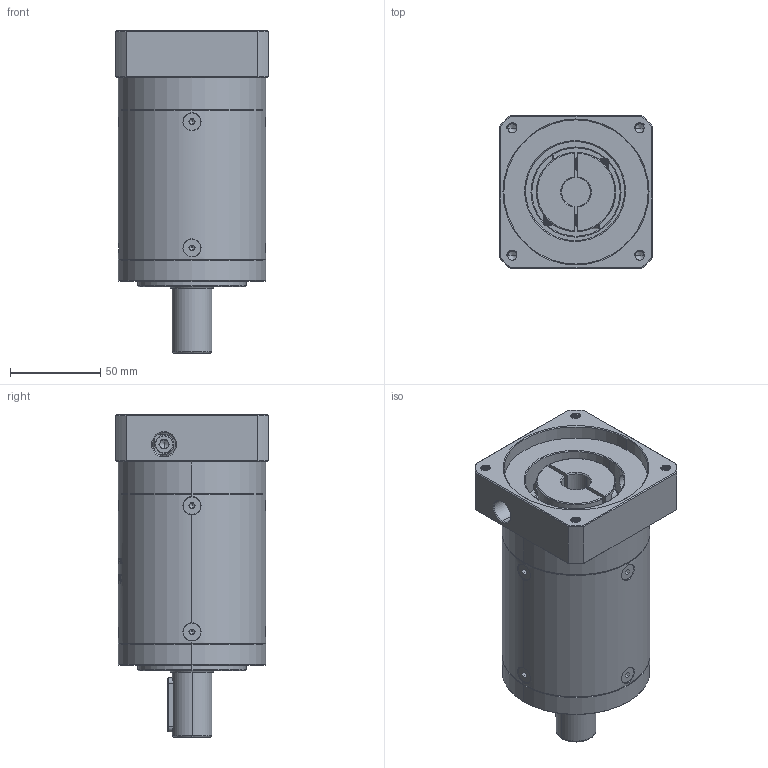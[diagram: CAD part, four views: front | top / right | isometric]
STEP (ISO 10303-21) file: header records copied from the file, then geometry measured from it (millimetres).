
FILE_DESCRIPTION (( 'STEP AP214' ), '1' );
FILE_NAME ('ZE80-D22-L3-16-80-100-M6.step', '2022-05-08T05:55:25', ( '' ), ( 'Microsoft' ), 'SwSTEP 2.0', 'SolidWorks 2016', '' );
FILE_SCHEMA (( 'AUTOMOTIVE_DESIGN' ));
Length unit declared in the file: millimetre
Products named in the file (1): ZE80-D22-L3-16-80-100-M6
Bounding box: 85 x 85 x 179 mm (x, y, z)
Volume: 718377 mm3; surface area: 95793.8 mm2
Topology: 13 solids, 13 shells, 2063 faces, 5364 edges, 3390 vertices
Faces by surface type: plane 891, cylinder 500, bspline 332, cone 323, torus 17
Entity records: 118330 total; most frequent: CARTESIAN_POINT 49478, ORIENTED_EDGE 10652, DIRECTION 8177, EDGE_CURVE 5326, VERTEX_POINT 3390, VECTOR 2859, LINE 2859, AXIS2_PLACEMENT_3D 2659
